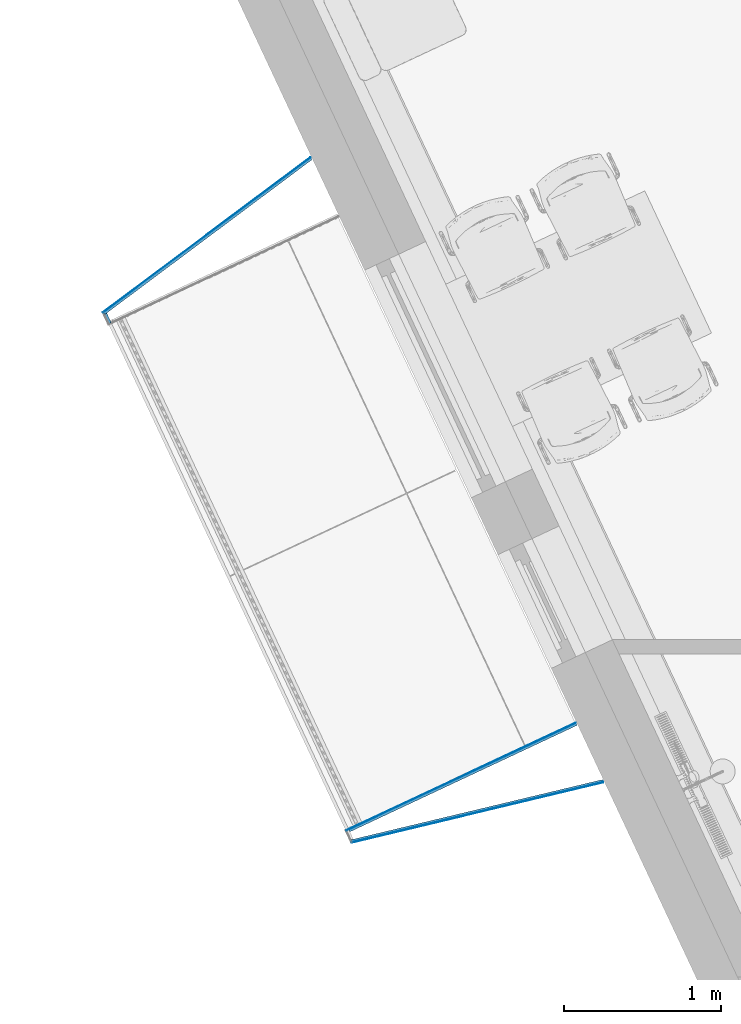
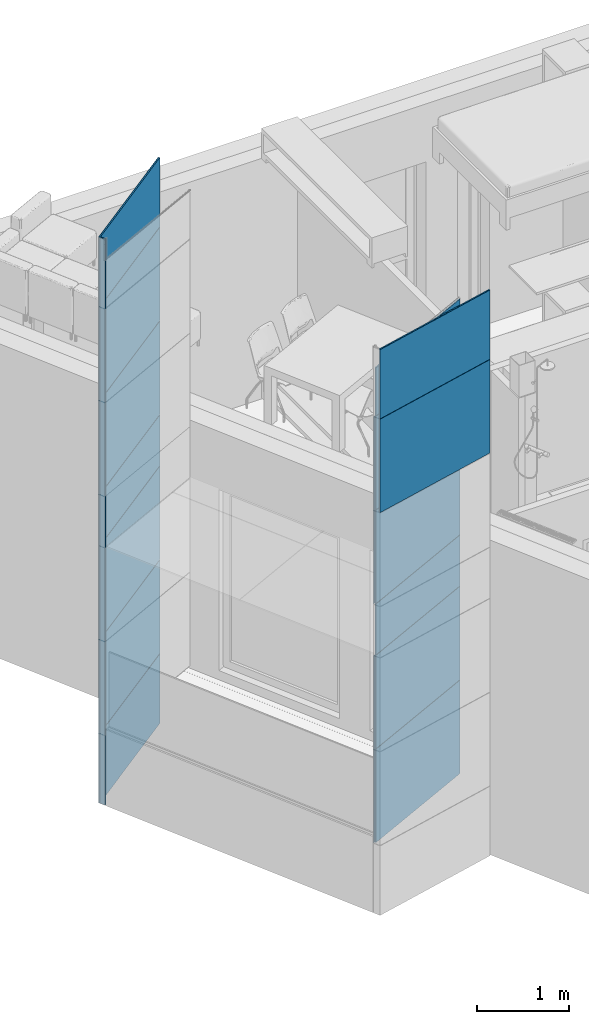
# One storey, part 10 of 125: 29 building element parts, 4 elements without a shape of their own.
"""IFC2X3 building model written with IfcOpenShell, lengths in millimetres."""

from ifc_helpers import new_model, entity, si_unit, converted_unit, direction, frame, frame_2d, origin, place, context, subcontext, project, spatial, polyline, rectangle, outline, extrude, material, type_object, element, aggregate, save


model = new_model("IFC2X3")

# Units and contexts
model_context = context("Model", 3, precision=0.01, world=origin(), true_north=direction((6.123233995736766e-17, 1.0)))
plan_context = context("Plan", 3, precision=0.01, world=origin(), true_north=direction((6.123233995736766e-17, 1.0)))
body_context = subcontext(model_context, "Body", "Model", "MODEL_VIEW")
ifc_project = project(units=[si_unit("LENGTHUNIT", "METRE", prefix="MILLI"), converted_unit("PLANEANGLEUNIT", "DEGREE", entity("IfcPlaneAngleMeasure", 0.017453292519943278), si_unit("PLANEANGLEUNIT", "RADIAN"), dimensions=[0, 0, 0, 0, 0, 0, 0]), si_unit("AREAUNIT", "SQUARE_METRE")], contexts=[model_context, plan_context])

# Site, building, storey
site_placement = place(None, origin())
site = spatial("IfcSite", under=ifc_project, at=site_placement, Name="Default", CompositionType="ELEMENT")
building_placement = place(site_placement, origin())
building = spatial("IfcBuilding", under=site, at=building_placement, CompositionType="ELEMENT")
storey_placement = place(building_placement, frame((0.0, 0.0, 3125.0)))
storey = spatial("IfcBuildingStorey", under=building, at=storey_placement, Name="2K", CompositionType="ELEMENT", Elevation=3125.0)

# Wall, building element parts
wall_type = type_object("IfcWallType", Name="Basic Wall:VS-komposiit", PredefinedType="STANDARD")
wall_1_placement = place(storey_placement, frame((-3965.1331389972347, 11862.023844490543, -1010.0), z_axis=(0.0, 0.0, 1.0), x_axis=(-0.8010697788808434, -0.5985709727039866, 0.0)))
wall_1 = element("IfcWall", 1, at=wall_1_placement, inside=storey, type_object=wall_type, Name="Basic Wall:VS-komposiit", ObjectType="Basic Wall:VS-komposiit")
ifc_material_1 = material(Name="_K. Välisviimistlus. Alumiinium-komposiitplaat")
building_element_part_1_placement = place(wall_1_placement, origin())
building_element_part_1 = element("IfcBuildingElementPart", 2, at=building_element_part_1_placement, material=ifc_material_1, Name="Part", context=body_context, shape_type="SweptSolid", body=[
    extrude(outline(polyline([(-824.6069840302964, -2.0), (824.1945173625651, -2.0), (824.1945173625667, 2.0), (-823.7820506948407, 2.0), (-824.6069840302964, -2.0)])), frame((824.1945173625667, -8.0, 0.0), z_axis=(0.0, 0.0, 1.0), x_axis=(-1.0, 0.0, 0.0)), (0.0, 0.0, 1.0), 922.5000000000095),
])
ifc_material_2 = material(Name="_K. Õhk. Roov. Fassaadikatte alusroov. Horisontaalne. 25 mm")
building_element_part_2_placement = place(wall_1_placement, origin())
building_element_part_2 = element("IfcBuildingElementPart", 3, at=building_element_part_2_placement, material=ifc_material_2, Name="Part", context=body_context, shape_type="SweptSolid", body=[
    extrude(outline(polyline([(-824.8334613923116, -8.0), (823.1835947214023, -8.0), (823.1835947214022, 8.0), (-821.5337280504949, 8.0), (-824.8334613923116, -8.0)])), frame((823.1835947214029, 2.0, 0.0), z_axis=(0.0, 0.0, 1.0), x_axis=(-1.0, 0.0, 0.0)), (0.0, 0.0, 1.0), 922.5000000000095),
])
building_element_part_3_placement = place(wall_1_placement, origin())
building_element_part_3 = element("IfcBuildingElementPart", 4, at=building_element_part_3_placement, material=ifc_material_2, Name="Part", context=body_context, shape_type="SweptSolid", body=[
    extrude(outline(polyline([(-824.83346139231, -8.0), (823.183594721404, -8.0), (823.1835947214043, 8.0), (-821.5337280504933, 8.0), (-824.83346139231, -8.0)])), frame((823.183594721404, 2.0, 4097.500000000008), z_axis=(0.0, 0.0, 1.0), x_axis=(-1.0, 0.0, 0.0)), (0.0, 0.0, 1.0), 1240.0000000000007),
])
building_element_part_4_placement = place(wall_1_placement, origin())
building_element_part_4 = element("IfcBuildingElementPart", 5, at=building_element_part_4_placement, material=ifc_material_2, Name="Part", context=body_context, shape_type="SweptSolid", body=[
    extrude(outline(polyline([(-824.8334613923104, -8.0), (823.1835947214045, -8.0), (823.1835947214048, 8.0), (-821.5337280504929, 8.0), (-824.8334613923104, -8.0)])), frame((823.183594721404, 2.0, 5342.50000000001), z_axis=(0.0, 0.0, 1.0), x_axis=(-1.0, 0.0, 0.0)), (0.0, 0.0, 1.0), 1239.9999999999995),
])
building_element_part_5_placement = place(wall_1_placement, origin())
building_element_part_5 = element("IfcBuildingElementPart", 6, at=building_element_part_5_placement, material=ifc_material_2, Name="Part", context=body_context, shape_type="SweptSolid", body=[
    extrude(outline(polyline([(-824.83346139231, -8.0), (823.183594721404, -8.0), (823.1835947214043, 8.0), (-821.5337280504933, 8.0), (-824.83346139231, -8.0)])), frame((823.183594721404, 2.0, 3417.5000000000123), z_axis=(0.0, 0.0, 1.0), x_axis=(-1.0, 0.0, 0.0)), (0.0, 0.0, 1.0), 674.999999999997),
])
building_element_part_6_placement = place(wall_1_placement, origin())
building_element_part_6 = element("IfcBuildingElementPart", 7, at=building_element_part_6_placement, material=ifc_material_2, Name="Part", context=body_context, shape_type="SweptSolid", body=[
    extrude(outline(polyline([(-824.83346139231, -8.0), (823.183594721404, -8.0), (823.1835947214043, 8.0), (-821.5337280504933, 8.0), (-824.83346139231, -8.0)])), frame((823.183594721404, 2.0, 927.5000000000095), z_axis=(0.0, 0.0, 1.0), x_axis=(-1.0, 0.0, 0.0)), (0.0, 0.0, 1.0), 1240.0000000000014),
])
building_element_part_7_placement = place(wall_1_placement, origin())
building_element_part_7 = element("IfcBuildingElementPart", 8, at=building_element_part_7_placement, material=ifc_material_2, Name="Part", context=body_context, shape_type="SweptSolid", body=[
    extrude(outline(polyline([(-824.8334613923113, -8.0), (823.1835947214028, -8.0), (823.183594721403, 8.0), (-821.5337280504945, 8.0), (-824.8334613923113, -8.0)])), frame((823.1835947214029, 2.0, 2172.50000000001), z_axis=(0.0, 0.0, 1.0), x_axis=(-1.0, 0.0, 0.0)), (0.0, 0.0, 1.0), 1240.0000000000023),
])
building_element_part_8_placement = place(wall_1_placement, origin())
building_element_part_8 = element("IfcBuildingElementPart", 9, at=building_element_part_8_placement, material=ifc_material_2, Name="Part", context=body_context, shape_type="SweptSolid", body=[
    extrude(outline(polyline([(-824.8334613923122, -8.0), (823.1835947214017, -8.0), (823.1835947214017, 8.0), (-821.5337280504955, 8.0), (-824.8334613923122, -8.0)])), frame((823.1835947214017, 2.0, 6587.500000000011), z_axis=(0.0, 0.0, 1.0), x_axis=(-1.0, 0.0, 0.0)), (0.0, 0.0, 1.0), 917.5000763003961),
])
building_element_part_9_placement = place(wall_1_placement, origin())
building_element_part_9 = element("IfcBuildingElementPart", 10, at=building_element_part_9_placement, material=ifc_material_1, Name="Part", context=body_context, shape_type="SweptSolid", body=[
    extrude(outline(polyline([(-824.6069840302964, -2.0), (824.1945173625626, -2.0), (824.1945173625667, 2.0), (-823.7820506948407, 2.0), (-824.6069840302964, -2.0)])), frame((824.1945173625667, -8.0, 4097.500000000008), z_axis=(0.0, 0.0, 1.0), x_axis=(-1.0, 0.0, 0.0)), (0.0, 0.0, 1.0), 1240.0000000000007),
])
building_element_part_10_placement = place(wall_1_placement, origin())
building_element_part_10 = element("IfcBuildingElementPart", 11, at=building_element_part_10_placement, material=ifc_material_1, Name="Part", context=body_context, shape_type="SweptSolid", body=[
    extrude(outline(polyline([(-824.6069840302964, -2.0), (824.1945173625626, -2.0), (824.1945173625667, 2.0), (-823.7820506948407, 2.0), (-824.6069840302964, -2.0)])), frame((824.1945173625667, -8.0, 5342.50000000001), z_axis=(0.0, 0.0, 1.0), x_axis=(-1.0, 0.0, 0.0)), (0.0, 0.0, 1.0), 1239.9999999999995),
])
building_element_part_11_placement = place(wall_1_placement, origin())
building_element_part_11 = element("IfcBuildingElementPart", 12, at=building_element_part_11_placement, material=ifc_material_1, Name="Part", context=body_context, shape_type="SweptSolid", body=[
    extrude(outline(polyline([(-824.6069840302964, -2.0), (824.1945173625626, -2.0), (824.1945173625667, 2.0), (-823.7820506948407, 2.0), (-824.6069840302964, -2.0)])), frame((824.1945173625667, -8.0, 3417.5000000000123), z_axis=(0.0, 0.0, 1.0), x_axis=(-1.0, 0.0, 0.0)), (0.0, 0.0, 1.0), 674.999999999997),
])
building_element_part_12_placement = place(wall_1_placement, origin())
building_element_part_12 = element("IfcBuildingElementPart", 13, at=building_element_part_12_placement, material=ifc_material_1, Name="Part", context=body_context, shape_type="SweptSolid", body=[
    extrude(outline(polyline([(-824.6069840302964, -2.0), (824.1945173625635, -2.0), (824.1945173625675, 2.0), (-823.7820506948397, 2.0), (-824.6069840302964, -2.0)])), frame((824.1945173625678, -8.0, 927.500000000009), z_axis=(0.0, 0.0, 1.0), x_axis=(-1.0, 0.0, 0.0)), (0.0, 0.0, 1.0), 1240.0000000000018),
])
building_element_part_13_placement = place(wall_1_placement, origin())
building_element_part_13 = element("IfcBuildingElementPart", 14, at=building_element_part_13_placement, material=ifc_material_1, Name="Part", context=body_context, shape_type="SweptSolid", body=[
    extrude(outline(polyline([(-824.6069840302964, -2.0), (824.1945173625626, -2.0), (824.1945173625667, 2.0), (-823.7820506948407, 2.0), (-824.6069840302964, -2.0)])), frame((824.1945173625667, -8.0, 2172.5000000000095), z_axis=(0.0, 0.0, 1.0), x_axis=(-1.0, 0.0, 0.0)), (0.0, 0.0, 1.0), 1240.000000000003),
])
building_element_part_14_placement = place(wall_1_placement, origin())
building_element_part_14 = element("IfcBuildingElementPart", 15, at=building_element_part_14_placement, material=ifc_material_1, Name="Part", context=body_context, shape_type="SweptSolid", body=[
    extrude(outline(polyline([(-824.6069840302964, -2.0), (824.1945173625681, -2.0), (824.1945173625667, 2.0), (-823.7820506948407, 2.0), (-824.6069840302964, -2.0)])), frame((824.1945173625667, -8.0, 6587.500000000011), z_axis=(0.0, 0.0, 1.0), x_axis=(-1.0, 0.0, 0.0)), (0.0, 0.0, 1.0), 917.5000763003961),
])
aggregate(wall_1, [building_element_part_1, building_element_part_2, building_element_part_3, building_element_part_4, building_element_part_5, building_element_part_6, building_element_part_7, building_element_part_8, building_element_part_9, building_element_part_10, building_element_part_11, building_element_part_12, building_element_part_13, building_element_part_14])

# Wall, building element part
wall_2_placement = place(storey_placement, frame((-5275.291839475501, 10873.092340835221, -1010.0), z_axis=(0.0, 0.0, 1.0), x_axis=(0.4244316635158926, -0.9054599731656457, 0.0)))
wall_2 = element("IfcWall", 16, at=wall_2_placement, inside=storey, type_object=wall_type, Name="Basic Wall:VS-komposiit", ObjectType="Basic Wall:VS-komposiit")
building_element_part_15_placement = place(wall_2_placement, origin())
building_element_part_15 = element("IfcBuildingElementPart", 17, at=building_element_part_15_placement, material=ifc_material_2, Name="Part", context=body_context, shape_type="SweptSolid", body=[
    extrude(outline(polyline([(-33.06294461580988, -8.0), (34.71281128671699, -8.0), (31.413077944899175, 8.0), (-33.06294461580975, 8.0), (-33.06294461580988, -8.0)])), frame((34.71281128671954, 2.0, 0.0), z_axis=(0.0, 0.0, 1.0), x_axis=(-1.0, 0.0, 0.0)), (0.0, 0.0, 1.0), 7504.999999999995),
])
aggregate(wall_2, [building_element_part_15])

# Wall, building element parts
wall_3_placement = place(storey_placement, frame((-2106.893259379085, 7897.753671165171, -1010.0), z_axis=(0.0, 0.0, 1.0), x_axis=(-0.9725243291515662, -0.23280126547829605, 0.0)))
wall_3 = element("IfcWall", 18, at=wall_3_placement, inside=storey, type_object=wall_type, Name="Basic Wall:VS-komposiit", ObjectType="Basic Wall:VS-komposiit")
building_element_part_16_placement = place(wall_3_placement, origin())
building_element_part_16 = element("IfcBuildingElementPart", 19, at=building_element_part_16_placement, material=ifc_material_1, Name="Part", context=body_context, shape_type="SweptSolid", body=[
    extrude(outline(polyline([(-824.1925278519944, -2.0), (824.6049945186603, -2.0), (823.7800611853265, 2.0), (-824.192527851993, 2.0), (-824.1925278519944, -2.0)])), frame((824.1925278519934, 8.0, 6587.5)), (0.0, 0.0, 1.0), 917.4999999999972),
])
building_element_part_17_placement = place(wall_3_placement, origin())
building_element_part_17 = element("IfcBuildingElementPart", 20, at=building_element_part_17_placement, material=ifc_material_2, Name="Part", context=body_context, shape_type="SweptSolid", body=[
    extrude(outline(polyline([(-823.1816052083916, -8.0), (824.8314718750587, -8.0), (821.5317385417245, 8.0), (-823.1816052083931, 8.0), (-823.1816052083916, -8.0)])), frame((823.181605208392, -2.0, 6587.5)), (0.0, 0.0, 1.0), 917.4999999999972),
])
building_element_part_18_placement = place(wall_3_placement, origin())
building_element_part_18 = element("IfcBuildingElementPart", 21, at=building_element_part_18_placement, material=ifc_material_2, Name="Part", context=body_context, shape_type="SweptSolid", body=[
    extrude(outline(polyline([(-823.1816052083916, -8.0), (824.8314718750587, -8.0), (821.5317385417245, 8.0), (-823.1816052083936, 8.0), (-823.1816052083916, -8.0)])), frame((823.181605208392, -2.0, 5342.499999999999)), (0.0, 0.0, 1.0), 1240.000000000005),
])
building_element_part_19_placement = place(wall_3_placement, origin())
building_element_part_19 = element("IfcBuildingElementPart", 22, at=building_element_part_19_placement, material=ifc_material_1, Name="Part", context=body_context, shape_type="SweptSolid", body=[
    extrude(outline(polyline([(-824.1925278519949, -2.0), (824.6049945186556, -2.0), (823.7800611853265, 2.0), (-824.1925278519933, 2.0), (-824.1925278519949, -2.0)])), frame((824.1925278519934, 8.0, 5342.499999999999)), (0.0, 0.0, 1.0), 1240.0000000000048),
])
aggregate(wall_3, [building_element_part_16, building_element_part_17, building_element_part_18, building_element_part_19])

wall_4_placement = place(storey_placement, frame((-3722.2860921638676, 7583.557938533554, -1010.0), z_axis=(0.0, 0.0, 1.0), x_axis=(0.9054578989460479, 0.42443608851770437, 0.0)))
wall_4 = element("IfcWall", 23, at=wall_4_placement, inside=storey, type_object=wall_type, Name="Basic Wall:VS-komposiit", ObjectType="Basic Wall:VS-komposiit")
building_element_part_20_placement = place(wall_4_placement, origin())
building_element_part_20 = element("IfcBuildingElementPart", 24, at=building_element_part_20_placement, material=ifc_material_2, Name="Part", context=body_context, shape_type="SweptSolid", body=[
    extrude(rectangle(XDim=1596.9999999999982, YDim=15.999999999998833, at=frame_2d((1.1368683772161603e-13, -6.794564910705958e-14), x_axis=(1.0, 0.0))), frame((798.5000000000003, -2.0, 5342.499999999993), z_axis=(0.0, 0.0, 1.0), x_axis=(-1.0, 0.0, 0.0)), (0.0, 0.0, 1.0), 1240.0000000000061),
])
building_element_part_21_placement = place(wall_4_placement, origin())
building_element_part_21 = element("IfcBuildingElementPart", 25, at=building_element_part_21_placement, material=ifc_material_2, Name="Part", context=body_context, shape_type="SweptSolid", body=[
    extrude(rectangle(XDim=1596.9999999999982, YDim=15.9999999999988, at=frame_2d((-3.979039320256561e-13, 1.6919798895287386e-13), x_axis=(1.0, 0.0))), frame((798.4999999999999, -2.0, 4097.4999999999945), z_axis=(0.0, 0.0, 1.0), x_axis=(-1.0, 0.0, 0.0)), (0.0, 0.0, 1.0), 1240.000000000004),
])
building_element_part_22_placement = place(wall_4_placement, origin())
building_element_part_22 = element("IfcBuildingElementPart", 26, at=building_element_part_22_placement, material=ifc_material_2, Name="Part", context=body_context, shape_type="SweptSolid", body=[
    extrude(rectangle(XDim=1596.9999999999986, YDim=15.999999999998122, at=frame_2d((-3.979039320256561e-13, 1.6919798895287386e-13), x_axis=(1.0, 0.0))), frame((798.4999999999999, -2.0, 2172.499999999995), z_axis=(0.0, 0.0, 1.0), x_axis=(-1.0, 0.0, 0.0)), (0.0, 0.0, 1.0), 1240.0000000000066),
])
building_element_part_23_placement = place(wall_4_placement, origin())
building_element_part_23 = element("IfcBuildingElementPart", 27, at=building_element_part_23_placement, material=ifc_material_2, Name="Part", context=body_context, shape_type="SweptSolid", body=[
    extrude(rectangle(XDim=1596.9999999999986, YDim=15.9999999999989, at=frame_2d((-3.979039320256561e-13, 1.6919798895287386e-13), x_axis=(1.0, 0.0))), frame((798.4999999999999, -2.0, 927.4999999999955), z_axis=(0.0, 0.0, 1.0), x_axis=(-1.0, 0.0, 0.0)), (0.0, 0.0, 1.0), 1240.0000000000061),
])
building_element_part_24_placement = place(wall_4_placement, origin())
building_element_part_24 = element("IfcBuildingElementPart", 28, at=building_element_part_24_placement, material=ifc_material_1, Name="Part", context=body_context, shape_type="SweptSolid", body=[
    extrude(rectangle(XDim=4.000000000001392, YDim=1612.9999999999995, at=frame_2d((-4.39870362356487e-13, 3.979039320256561e-13), x_axis=(1.0, 0.0))), frame((790.5000000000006, 8.0, 5342.499999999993), z_axis=(0.0, 0.0, 1.0), x_axis=(0.0, 1.0, 0.0)), (0.0, 0.0, 1.0), 1240.000000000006),
])
building_element_part_25_placement = place(wall_4_placement, origin())
building_element_part_25 = element("IfcBuildingElementPart", 29, at=building_element_part_25_placement, material=ifc_material_1, Name="Part", context=body_context, shape_type="SweptSolid", body=[
    extrude(rectangle(XDim=4.000000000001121, YDim=1612.999999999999, at=frame_2d((9.136025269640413e-13, 6.252776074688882e-13), x_axis=(1.0, 0.0))), frame((790.5000000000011, 8.0, 4097.4999999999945), z_axis=(0.0, 0.0, 1.0), x_axis=(0.0, 1.0, 0.0)), (0.0, 0.0, 1.0), 1240.000000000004),
])
building_element_part_26_placement = place(wall_4_placement, origin())
building_element_part_26 = element("IfcBuildingElementPart", 30, at=building_element_part_26_placement, material=ifc_material_1, Name="Part", context=body_context, shape_type="SweptSolid", body=[
    extrude(rectangle(XDim=4.000000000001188, YDim=1612.999999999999, at=frame_2d((-3.383959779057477e-13, 6.252776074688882e-13), x_axis=(1.0, 0.0))), frame((790.5000000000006, 8.0, 2172.499999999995), z_axis=(0.0, 0.0, 1.0), x_axis=(0.0, 1.0, 0.0)), (0.0, 0.0, 1.0), 1240.0000000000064),
])
building_element_part_27_placement = place(wall_4_placement, origin())
building_element_part_27 = element("IfcBuildingElementPart", 31, at=building_element_part_27_placement, material=ifc_material_1, Name="Part", context=body_context, shape_type="SweptSolid", body=[
    extrude(rectangle(XDim=4.000000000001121, YDim=1612.999999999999, at=frame_2d((9.136025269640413e-13, 6.252776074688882e-13), x_axis=(1.0, 0.0))), frame((790.5000000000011, 8.0, 927.4999999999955), z_axis=(0.0, 0.0, 1.0), x_axis=(0.0, 1.0, 0.0)), (0.0, 0.0, 1.0), 1240.0000000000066),
])
building_element_part_28_placement = place(wall_4_placement, origin())
building_element_part_28 = element("IfcBuildingElementPart", 32, at=building_element_part_28_placement, material=ifc_material_2, Name="Part", context=body_context, shape_type="SweptSolid", body=[
    extrude(rectangle(XDim=1596.9999999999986, YDim=15.9999999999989, at=frame_2d((-3.979039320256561e-13, 1.6919798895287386e-13), x_axis=(1.0, 0.0))), frame((798.4999999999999, -2.0, 6587.499999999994), z_axis=(0.0, 0.0, 1.0), x_axis=(-1.0, 0.0, 0.0)), (0.0, 0.0, 1.0), 637.2000000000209),
])
building_element_part_29_placement = place(wall_4_placement, origin())
building_element_part_29 = element("IfcBuildingElementPart", 33, at=building_element_part_29_placement, material=ifc_material_2, Name="Part", context=body_context, shape_type="SweptSolid", body=[
    extrude(rectangle(XDim=1596.9999999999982, YDim=15.999999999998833, at=frame_2d((1.1368683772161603e-13, -6.794564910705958e-14), x_axis=(1.0, 0.0))), frame((798.5000000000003, -2.0, 3417.4999999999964), z_axis=(0.0, 0.0, 1.0), x_axis=(-1.0, 0.0, 0.0)), (0.0, 0.0, 1.0), 675.0000000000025),
])
aggregate(wall_4, [building_element_part_20, building_element_part_21, building_element_part_22, building_element_part_23, building_element_part_24, building_element_part_25, building_element_part_26, building_element_part_27, building_element_part_28, building_element_part_29])

save(model, "model.ifc")
